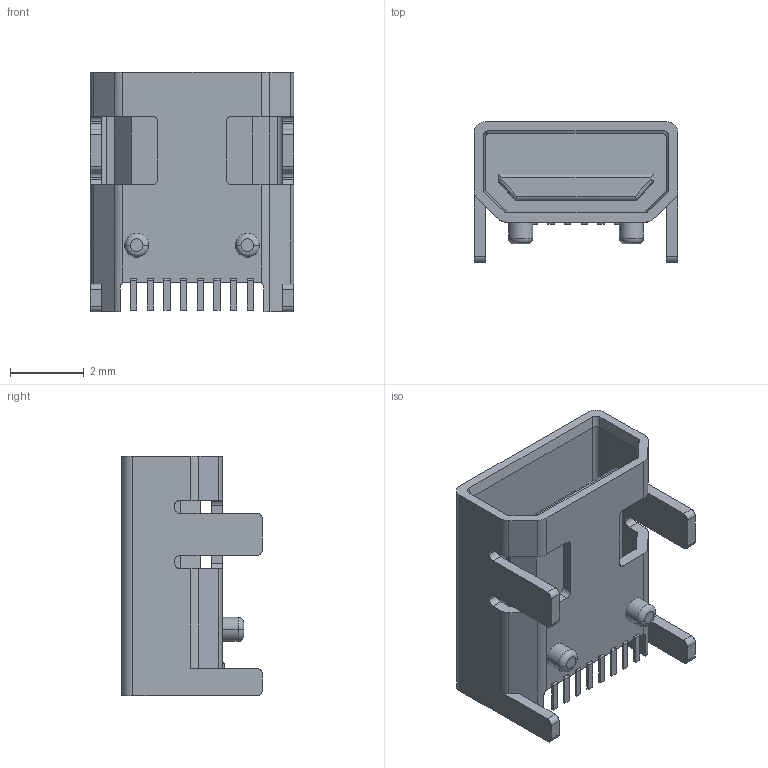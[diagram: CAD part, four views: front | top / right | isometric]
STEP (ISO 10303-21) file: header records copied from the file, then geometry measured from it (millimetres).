
FILE_DESCRIPTION(('CATIA V5 STEP Exchange'),'2;1');
FILE_NAME('F:\Work File\3D\MINI USB 8P母\1030802AR004.stp','2022-11-30T12:30:28+00:00',('none'),('none'),'CATIA Version 5 Release 17 (IN-10)','CATIA V5 STEP AP203','none');
FILE_SCHEMA(('CONFIG_CONTROL_DESIGN'));
Length unit declared in the file: millimetre
Products named in the file (1): 1030802AR004
Bounding box: 5.52 x 3.8 x 6.5 mm (x, y, z)
Volume: 42.6 mm3; surface area: 256.4 mm2
Topology: 9 solids, 11 shells, 184 faces, 470 edges, 308 vertices
Faces by surface type: plane 120, cylinder 58, torus 4, cone 2
Entity records: 5906 total; most frequent: CARTESIAN_POINT 1541, ORIENTED_EDGE 940, DIRECTION 774, EDGE_CURVE 470, VECTOR 346, LINE 346, VERTEX_POINT 308, AXIS2_PLACEMENT_3D 248
